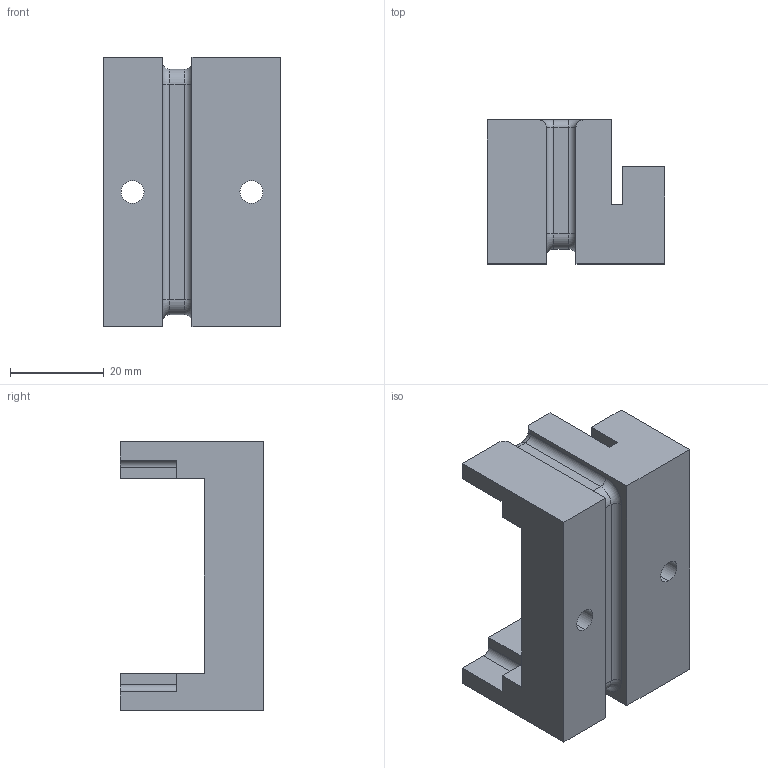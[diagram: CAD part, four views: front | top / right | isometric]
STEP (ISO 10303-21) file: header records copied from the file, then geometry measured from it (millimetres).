
FILE_DESCRIPTION (( 'STEP AP203' ), '1' );
FILE_NAME ('SERVO STAND 1.STEP', '2018-02-28T18:09:24', ( '' ), ( '' ), 'SwSTEP 2.0', 'SolidWorks 2015', '' );
FILE_SCHEMA (( 'CONFIG_CONTROL_DESIGN' ));
Length unit declared in the file: inch
Products named in the file (1): SERVO STAND 1
Bounding box: 38 x 30.7 x 57.5 mm (x, y, z)
Volume: 33074.6 mm3; surface area: 10472.5 mm2
Topology: 1 solids, 1 shells, 64 faces, 166 edges, 104 vertices
Faces by surface type: plane 32, cylinder 20, torus 8, cone 4
Entity records: 2029 total; most frequent: DIRECTION 348, CARTESIAN_POINT 335, ORIENTED_EDGE 332, EDGE_CURVE 166, AXIS2_PLACEMENT_3D 117, LINE 114, VECTOR 114, VERTEX_POINT 104
